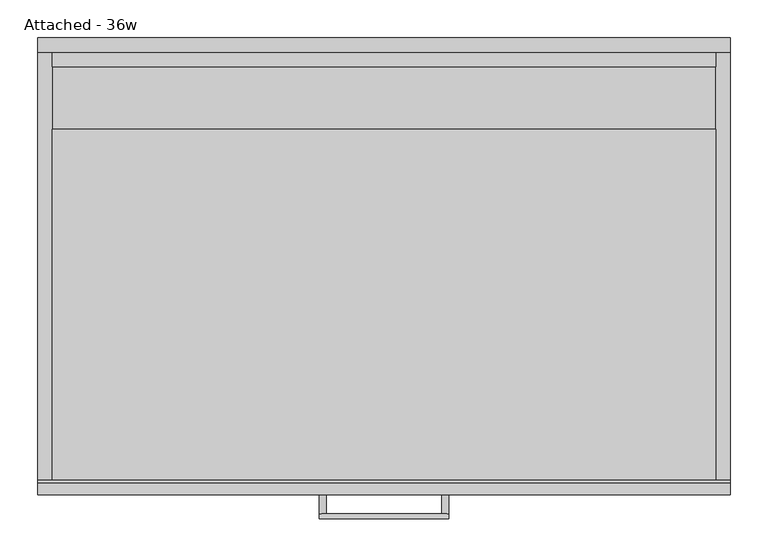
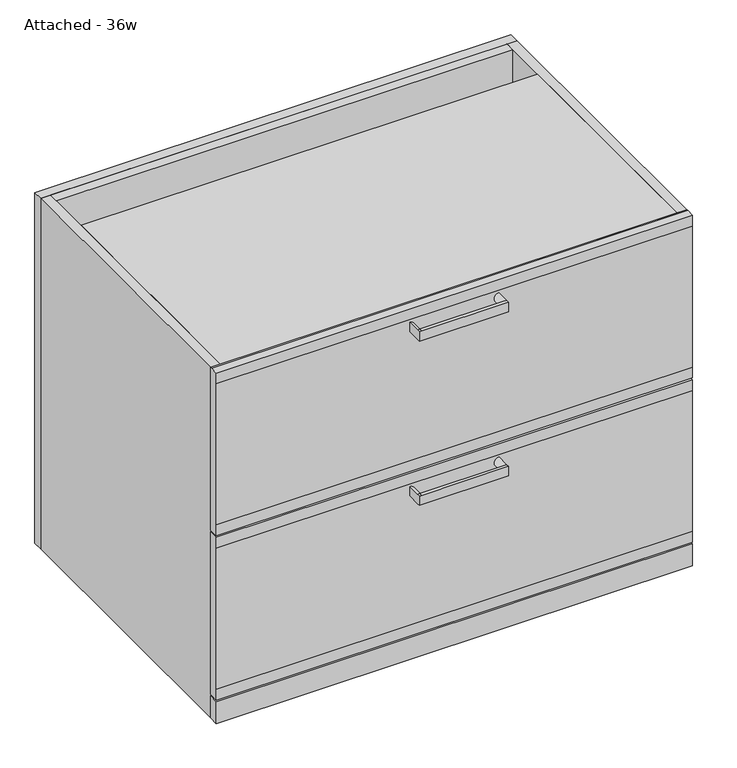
"""IFC4 building model written with IfcOpenShell, lengths in millimetres: furniture geometry, Haworth_Masters_Lateral_Attached : Attached - 36w."""

from ifc_helpers import new_model, si_unit, frame, origin, origin_with_axes, place, context, project, spatial, polyline, circle_curve, outline, extrude, source, transform, mapped, element, save
from ifc_brep_helpers import plane_surface, cylinder_surface, advanced_brep


def attached_36w_298ee9f2(model_context):
    return source(origin(), model_context, "Body", "SolidModel", [
        advanced_brep(
        [(-85.725, -584.2, 665.1625), (-85.725, -584.2, 684.2125), (-85.725, -609.6000121, 684.2125), (-85.725, -609.6000121, 665.1625), (-85.725, -615.9499879, 665.1625), (-85.725, -615.9499879, 684.2125), (85.725, -584.2, 665.1960294), (85.725, -584.2, 684.1789706), (85.725, -609.6000121, 665.1960294), (85.725, -609.6000121, 684.1789706), (85.725, -615.9499879, 684.2125), (85.725, -615.9499879, 665.1625)],
        [
            (0, 1),
            (1, 0, circle_curve(frame((-85.725, -584.2, 674.6875), z_axis=(0.0, 1.0, 0.0), x_axis=(1.0, 0.0, 0.0)), 9.525)),
            (1, 2),
            (2, 3, circle_curve(frame((-85.725, -609.6000121, 674.6875), z_axis=(0.0, 1.0, 0.0), x_axis=(1.0, 0.0, 0.0)), 9.525)),
            (3, 0),
            (3, 4),
            (4, 5),
            (5, 2),
            (6, 7, circle_curve(frame((85.725, -584.2, 674.6875), z_axis=(0.0, 1.0, 0.0), x_axis=(-1.0, 0.0, 0.0)), 9.4914706)),
            (7, 6),
            (6, 8),
            (8, 9, circle_curve(frame((85.725, -609.6000121, 674.6875), z_axis=(0.0, 1.0, 0.0), x_axis=(-1.0, 0.0, 0.0)), 9.4914706)),
            (9, 7),
            (9, 10),
            (10, 11),
            (11, 8),
            (10, 5),
            (4, 11),
            (8, 3),
            (2, 9),
        ],
        [
            plane_surface(frame((-76.2, -584.2, 674.6875), z_axis=(0.0, 1.0, 0.0), x_axis=(0.0, 0.0, -1.0))),
            cylinder_surface(frame((-85.725, -584.2, 674.6875), z_axis=(0.0, -1.0, 0.0), x_axis=(1.0, 0.0, 0.0)), 9.525),
            plane_surface(frame((-85.725, -609.6000121, 684.2125), z_axis=(-1.0, 0.0, 0.0), x_axis=(0.0, 1.0, 0.0))),
            plane_surface(frame((85.725, -584.2, 684.1789706), z_axis=(0.0, 1.0, 0.0), x_axis=(0.0, 0.0, -1.0))),
            cylinder_surface(frame((85.725, -584.2, 674.6875), z_axis=(0.0, -1.0, 0.0), x_axis=(-1.0, 0.0, 0.0)), 9.4914706),
            plane_surface(frame((85.725, -609.6000121, 665.1960294), z_axis=(1.0, 0.0, 0.0), x_axis=(0.0, 1.0, 0.0))),
            plane_surface(frame((-85.725, -615.9499879, 684.2125), z_axis=(0.0, -1.0, 0.0), x_axis=(-1.0, 0.0, 0.0))),
            plane_surface(frame((-85.725, -609.6000121, 684.2125), z_axis=(0.0, 1.0, 0.0), x_axis=(1.0, 0.0, 0.0))),
            plane_surface(frame((-85.725, -615.9499879, 665.1625), z_axis=(0.0, 0.0, -1.0), x_axis=(0.0, 1.0, 0.0))),
            plane_surface(frame((85.725, -615.9499879, 684.2125), z_axis=(0.0, 0.0, 1.0), x_axis=(0.0, 1.0, 0.0))),
        ],
        [
            (0, [[1, 2]]),
            (1, [[-2, 3, 4, 5]]),
            (2, [[-1, -5, 6, 7, 8, -3]]),
            (3, [[9, 10]]),
            (4, [[-9, 11, 12, 13]]),
            (5, [[-10, -13, 14, 15, 16, -11]]),
            (6, [[17, -7, 18, -15]]),
            (7, [[19, -4, 20, -12]]),
            (8, [[-18, -6, -19, -16]]),
            (9, [[-17, -14, -20, -8]]),
        ],
    ),
        extrude(outline(polyline([(-568.325, 711.2), (-565.15, 711.2), (-565.15, 381.0), (-568.325, 381.0), (-584.2, 381.0), (-584.2, 403.225), (-584.2, 688.975), (-584.2, 711.2), (-568.325, 711.2)])), frame((-457.2, 0.0, 0.0), z_axis=(1.0, 0.0, 0.0), x_axis=(0.0, 1.0, 0.0)), (0.0, 0.0, 1.0), 914.4),
        advanced_brep(
        [(-85.725, -584.2, 331.7875), (-85.725, -584.2, 350.8375), (-85.725, -609.6000121, 350.8375), (-85.725, -609.6000121, 331.7875), (-85.725, -615.9499879, 331.7875), (-85.725, -615.9499879, 350.8375), (85.725, -584.2, 331.8210294), (85.725, -584.2, 350.8039706), (85.725, -609.6000121, 331.8210294), (85.725, -609.6000121, 350.8039706), (85.725, -615.9499879, 350.8375), (85.725, -615.9499879, 331.7875)],
        [
            (0, 1),
            (1, 0, circle_curve(frame((-85.725, -584.2, 341.3125), z_axis=(0.0, 1.0, 0.0), x_axis=(1.0, 0.0, 0.0)), 9.525)),
            (1, 2),
            (2, 3, circle_curve(frame((-85.725, -609.6000121, 341.3125), z_axis=(0.0, 1.0, 0.0), x_axis=(1.0, 0.0, 0.0)), 9.525)),
            (3, 0),
            (3, 4),
            (4, 5),
            (5, 2),
            (6, 7, circle_curve(frame((85.725, -584.2, 341.3125), z_axis=(0.0, 1.0, 0.0), x_axis=(-1.0, 0.0, 0.0)), 9.4914706)),
            (7, 6),
            (6, 8),
            (8, 9, circle_curve(frame((85.725, -609.6000121, 341.3125), z_axis=(0.0, 1.0, 0.0), x_axis=(-1.0, 0.0, 0.0)), 9.4914706)),
            (9, 7),
            (9, 10),
            (10, 11),
            (11, 8),
            (10, 5),
            (4, 11),
            (8, 3),
            (2, 9),
        ],
        [
            plane_surface(frame((-76.2, -584.2, 341.3125), z_axis=(0.0, 1.0, 0.0), x_axis=(0.0, 0.0, -1.0))),
            cylinder_surface(frame((-85.725, -584.2, 341.3125), z_axis=(0.0, -1.0, 0.0), x_axis=(1.0, 0.0, 0.0)), 9.525),
            plane_surface(frame((-85.725, -609.6000121, 350.8375), z_axis=(-1.0, 0.0, 0.0), x_axis=(0.0, 1.0, 0.0))),
            plane_surface(frame((85.725, -584.2, 350.8039706), z_axis=(0.0, 1.0, 0.0), x_axis=(0.0, 0.0, -1.0))),
            cylinder_surface(frame((85.725, -584.2, 341.3125), z_axis=(0.0, -1.0, 0.0), x_axis=(-1.0, 0.0, 0.0)), 9.4914706),
            plane_surface(frame((85.725, -609.6000121, 331.8210294), z_axis=(1.0, 0.0, 0.0), x_axis=(0.0, 1.0, 0.0))),
            plane_surface(frame((-85.725, -615.9499879, 350.8375), z_axis=(0.0, -1.0, 0.0), x_axis=(-1.0, 0.0, 0.0))),
            plane_surface(frame((-85.725, -609.6000121, 350.8375), z_axis=(0.0, 1.0, 0.0), x_axis=(1.0, 0.0, 0.0))),
            plane_surface(frame((-85.725, -615.9499879, 331.7875), z_axis=(0.0, 0.0, -1.0), x_axis=(0.0, 1.0, 0.0))),
            plane_surface(frame((85.725, -615.9499879, 350.8375), z_axis=(0.0, 0.0, 1.0), x_axis=(0.0, 1.0, 0.0))),
        ],
        [
            (0, [[1, 2]]),
            (1, [[-2, 3, 4, 5]]),
            (2, [[-1, -5, 6, 7, 8, -3]]),
            (3, [[9, 10]]),
            (4, [[-9, 11, 12, 13]]),
            (5, [[-10, -13, 14, 15, 16, -11]]),
            (6, [[17, -7, 18, -15]]),
            (7, [[19, -4, 20, -12]]),
            (8, [[-18, -6, -19, -16]]),
            (9, [[-17, -14, -20, -8]]),
        ],
    ),
        extrude(outline(polyline([(-568.325, 377.825), (-565.15, 377.825), (-565.15, 47.625), (-568.325, 47.625), (-584.2, 47.625), (-584.2, 69.85), (-584.2, 355.6), (-584.2, 377.825), (-568.325, 377.825)])), frame((-457.2, 0.0, 0.0), z_axis=(1.0, 0.0, 0.0), x_axis=(0.0, 1.0, 0.0)), (0.0, 0.0, 1.0), 914.4),
        extrude(outline(polyline([(-438.15, 0.0), (438.15, 0.0), (438.15, -565.15), (-438.15, -565.15), (-438.15, 0.0)])), origin_with_axes(), (0.0, 0.0, 1.0), 19.05),
        extrude(outline(polyline([(457.2, 0.0), (-457.2, 0.0), (-457.2, 19.05), (457.2, 19.05), (457.2, 0.0)])), origin_with_axes(), (0.0, 0.0, 1.0), 711.2),
        extrude(outline(polyline([(-438.15, 0.0), (438.15, 0.0), (438.15, -19.05), (-438.15, -19.05), (-438.15, 0.0)])), frame((0.0, 0.0, 492.125), z_axis=(0.0, 0.0, 1.0), x_axis=(1.0, 0.0, 0.0)), (0.0, 0.0, 1.0), 219.075),
        extrude(outline(polyline([(-438.15, -101.6), (438.15, -101.6), (438.15, -565.15), (-438.15, -565.15), (-438.15, -101.6)])), frame((0.0, 0.0, 693.7375), z_axis=(0.0, 0.0, 1.0), x_axis=(1.0, 0.0, 0.0)), (0.0, 0.0, 1.0), 17.4625),
        extrude(outline(polyline([(457.2, 0.0), (457.2, -565.15), (438.15, -565.15), (438.15, 0.0), (457.2, 0.0)])), origin_with_axes(), (0.0, 0.0, 1.0), 711.2),
        extrude(outline(polyline([(457.2, -565.15), (457.2, -584.2), (-457.2, -584.2), (-457.2, -565.15), (457.2, -565.15)])), origin_with_axes(), (0.0, 0.0, 1.0), 44.45),
        extrude(outline(polyline([(-438.15, 0.0), (-438.15, -565.15), (-457.2, -565.15), (-457.2, 0.0), (-438.15, 0.0)])), origin_with_axes(), (0.0, 0.0, 1.0), 711.2),
    ])


if __name__ == "__main__":
    model = new_model("IFC4")
    model_context = context("Model", 3, world=origin())
    ifc_project = project(units=[si_unit("LENGTHUNIT", "METRE", prefix="MILLI")], contexts=[model_context])
    site = spatial("IfcSite", under=ifc_project)
    building = spatial("IfcBuilding", under=site)
    placement = place(None, origin())
    attached_36w_shape = attached_36w_298ee9f2(model_context)
    element("IfcFurniture", 1, ObjectType="Haworth_Masters_Lateral_Attached : Attached - 36w", at=placement, inside=building, context=model_context, shape_type="MappedRepresentation", body=[
        mapped(attached_36w_shape, transform((0.0, 0.0, 0.0), x_axis=(1.0, 0.0, 0.0), y_axis=(0.0, 1.0, 0.0), z_axis=(0.0, 0.0, 1.0))),
    ])
    save(model, "model.ifc")
